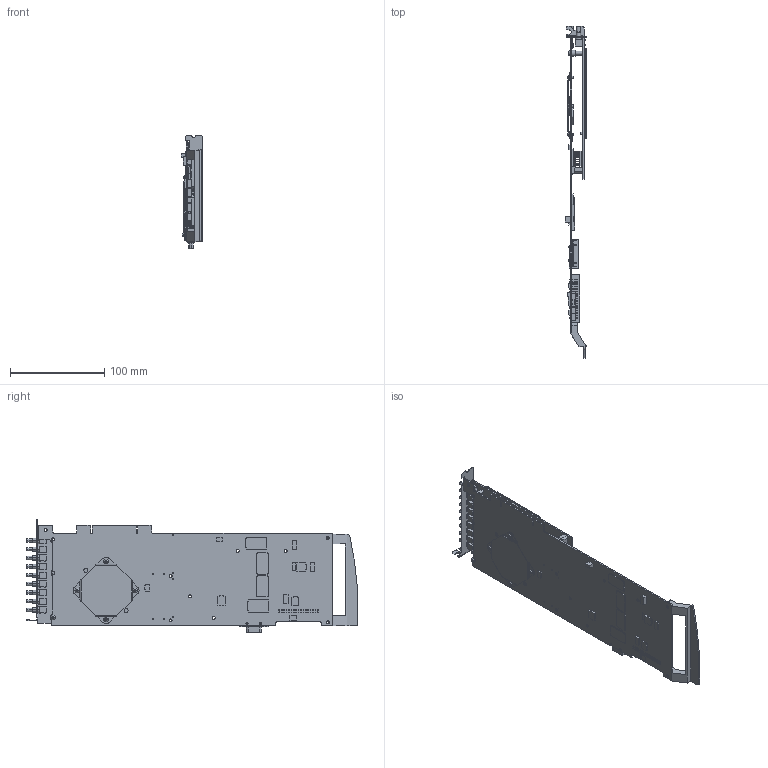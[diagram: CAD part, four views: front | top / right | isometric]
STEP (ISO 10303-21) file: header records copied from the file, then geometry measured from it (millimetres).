
FILE_DESCRIPTION((''),'2;1');
FILE_NAME('CD_PCI-5105','2009-12-14T',('jjorden'),(''),'PRO/ENGINEER BY PARAMETRIC TECHNOLOGY CORPORATION, 2006080','PRO/ENGINEER BY PARAMETRIC TECHNOLOGY CORPORATION, 2006080','');
FILE_SCHEMA(('CONFIG_CONTROL_DESIGN'));
Products named in the file (1): CD_PCI-5105
Bounding box: 23.09 x 352.19 x 119.99 mm (x, y, z)
Volume: 108089.3 mm3; surface area: 139598.3 mm2
Topology: 1 solids, 1 shells, 3607 faces, 9692 edges, 6227 vertices
Faces by surface type: plane 2826, cylinder 597, bspline 84, torus 38, cone 34, sphere 28
Entity records: 117534 total; most frequent: CARTESIAN_POINT 25789, ORIENTED_EDGE 19328, DIRECTION 18052, EDGE_CURVE 9664, VECTOR 7962, LINE 7962, VERTEX_POINT 6360, AXIS2_PLACEMENT_3D 5045
